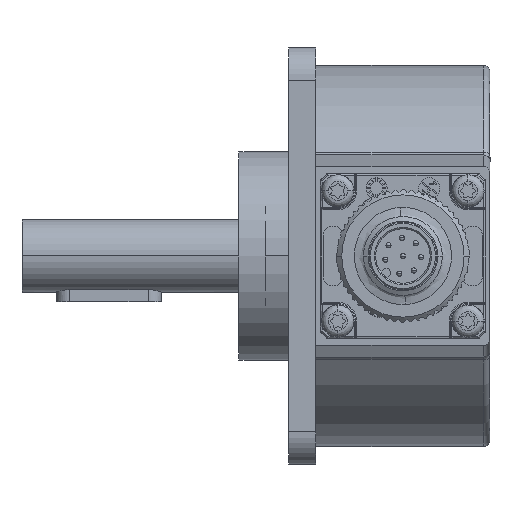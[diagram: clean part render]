
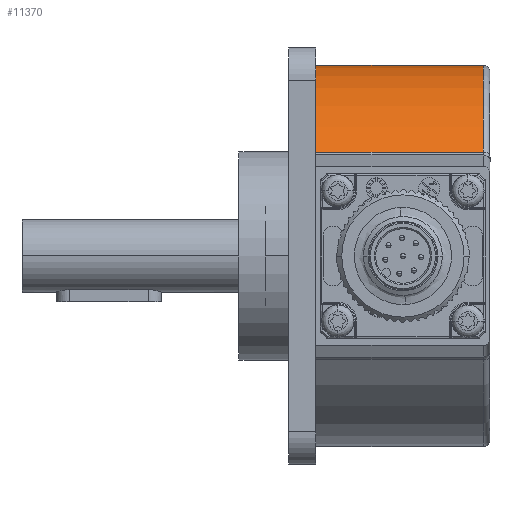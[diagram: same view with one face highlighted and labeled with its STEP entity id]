
A CAD part, front view. The second image highlights one B-rep face of the part: STEP entity #11370.
In plain terms, the highlighted cylindrical face has radius 29 mm (diameter 58 mm), a partial arc.
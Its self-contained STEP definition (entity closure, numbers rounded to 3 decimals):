
#209 = ORIENTED_EDGE ( 'NONE', *, *, #2968, .T. ) ;
#627 = VECTOR ( 'NONE', #37252, 1000. ) ;
#2511 = DIRECTION ( 'NONE',  ( -1., 0., 0. ) ) ;
#2884 = EDGE_CURVE ( 'NONE', #35862, #36987, #44104, .T. ) ;
#2968 = EDGE_CURVE ( 'NONE', #20354, #31534, #44320, .T. ) ;
#3355 = CARTESIAN_POINT ( 'NONE',  ( 33.568, 25.423, 0. ) ) ;
#5406 = EDGE_LOOP ( 'NONE', ( #33346, #39862, #12984, #209 ) ) ;
#5432 = CARTESIAN_POINT ( 'NONE',  ( 8.068, 25.423, 29. ) ) ;
#6539 = DIRECTION ( 'NONE',  ( 0., 0., -1. ) ) ;
#7908 = CARTESIAN_POINT ( 'NONE',  ( 33.568, 1.11, 15.807 ) ) ;
#9082 = CIRCLE ( 'NONE', #29434, 29. ) ;
#10087 = CARTESIAN_POINT ( 'NONE',  ( 8.068, 1.11, 15.807 ) ) ;
#11370 = ADVANCED_FACE ( 'NONE', ( #33318 ), #19403, .T. ) ;
#12900 = DIRECTION ( 'NONE',  ( -1., 0., 0. ) ) ;
#12984 = ORIENTED_EDGE ( 'NONE', *, *, #36997, .F. ) ;
#13102 = CARTESIAN_POINT ( 'NONE',  ( 8.068, 1.11, 15.807 ) ) ;
#14310 = CIRCLE ( 'NONE', #20108, 29. ) ;
#15984 = CARTESIAN_POINT ( 'NONE',  ( 8.068, 25.423, 0. ) ) ;
#19403 = CYLINDRICAL_SURFACE ( 'NONE', #26937, 29. ) ;
#20108 = AXIS2_PLACEMENT_3D ( 'NONE', #44197, #26826, #40756 ) ;
#20354 = VERTEX_POINT ( 'NONE', #10087 ) ;
#21933 = VECTOR ( 'NONE', #12900, 1000. ) ;
#26826 = DIRECTION ( 'NONE',  ( -1., 0., 0. ) ) ;
#26937 = AXIS2_PLACEMENT_3D ( 'NONE', #15984, #2511, #33759 ) ;
#27742 = CARTESIAN_POINT ( 'NONE',  ( 33.568, 25.423, 29. ) ) ;
#29434 = AXIS2_PLACEMENT_3D ( 'NONE', #3355, #37172, #6539 ) ;
#31534 = VERTEX_POINT ( 'NONE', #7908 ) ;
#32699 = CARTESIAN_POINT ( 'NONE',  ( 8.068, 25.423, 29. ) ) ;
#33318 = FACE_OUTER_BOUND ( 'NONE', #5406, .T. ) ;
#33346 = ORIENTED_EDGE ( 'NONE', *, *, #42179, .T. ) ;
#33759 = DIRECTION ( 'NONE',  ( 0., 0., -1. ) ) ;
#35862 = VERTEX_POINT ( 'NONE', #27742 ) ;
#36987 = VERTEX_POINT ( 'NONE', #5432 ) ;
#36997 = EDGE_CURVE ( 'NONE', #20354, #36987, #14310, .T. ) ;
#37172 = DIRECTION ( 'NONE',  ( -1., 0., 0. ) ) ;
#37252 = DIRECTION ( 'NONE',  ( 1., 0., 0. ) ) ;
#39862 = ORIENTED_EDGE ( 'NONE', *, *, #2884, .T. ) ;
#40756 = DIRECTION ( 'NONE',  ( 0., 0., -1. ) ) ;
#42179 = EDGE_CURVE ( 'NONE', #31534, #35862, #9082, .T. ) ;
#44104 = LINE ( 'NONE', #32699, #21933 ) ;
#44197 = CARTESIAN_POINT ( 'NONE',  ( 8.068, 25.423, 0. ) ) ;
#44320 = LINE ( 'NONE', #13102, #627 ) ;
